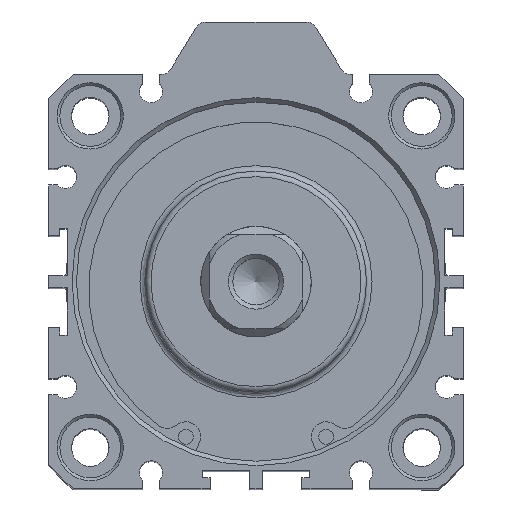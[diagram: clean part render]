
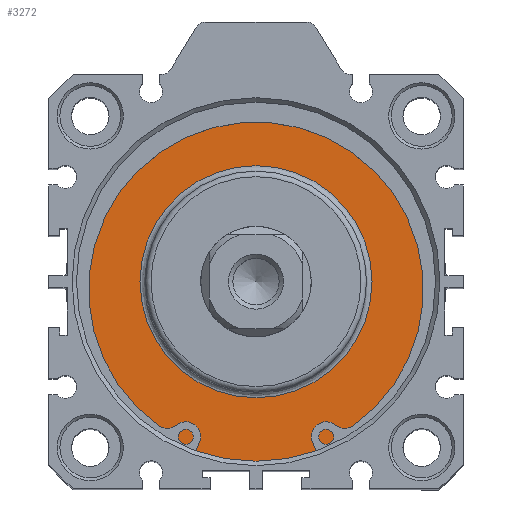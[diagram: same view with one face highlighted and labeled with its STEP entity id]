
A CAD part, top view. The second image highlights one B-rep face of the part: STEP entity #3272.
In plain terms, the highlighted planar face has unit normal (0, 0, 1).
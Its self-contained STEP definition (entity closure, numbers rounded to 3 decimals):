
#3221=CARTESIAN_POINT('',(0.359,19.684,112.3));
#3222=VERTEX_POINT('',#3221);
#3223=CARTESIAN_POINT('',(0.359,-1.316,112.3));
#3224=DIRECTION('',(0.0,0.0,1.0));
#3225=DIRECTION('',(0.0,-1.0,0.0));
#3226=AXIS2_PLACEMENT_3D('',#3223,#3224,#3225);
#3227=CIRCLE('',#3226,21.);
#3228=EDGE_CURVE('',#3222,#3222,#3227,.T.);
#3253=CARTESIAN_POINT('',(0.359,24.934,112.3));
#3254=DIRECTION('',(0.0,0.0,1.0));
#3255=DIRECTION('',(1.0,0.0,0.0));
#3256=AXIS2_PLACEMENT_3D('',#3253,#3254,#3255);
#3257=PLANE('',#3256);
#3258=CARTESIAN_POINT('',(0.359,31.184,112.3));
#3259=VERTEX_POINT('',#3258);
#3260=CARTESIAN_POINT('',(0.359,-1.316,112.3));
#3261=DIRECTION('',(0.0,0.0,-1.0));
#3262=DIRECTION('',(0.0,1.0,0.0));
#3263=AXIS2_PLACEMENT_3D('',#3260,#3261,#3262);
#3264=CIRCLE('',#3263,32.5);
#3265=EDGE_CURVE('',#3259,#3259,#3264,.T.);
#3266=ORIENTED_EDGE('',*,*,#3265,.F.);
#3267=EDGE_LOOP('',(#3266));
#3268=FACE_OUTER_BOUND('',#3267,.T.);
#3269=ORIENTED_EDGE('',*,*,#3228,.F.);
#3270=EDGE_LOOP('',(#3269));
#3271=FACE_BOUND('',#3270,.T.);
#3272=ADVANCED_FACE('',(#3268,#3271),#3257,.T.);
